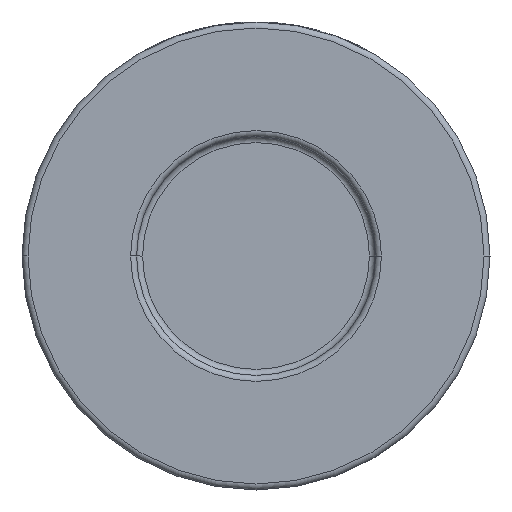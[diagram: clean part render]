
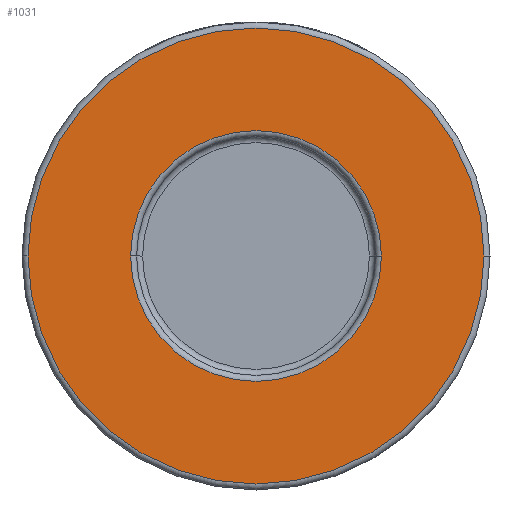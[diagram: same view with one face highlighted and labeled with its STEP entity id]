
A CAD part, front view. The second image highlights one B-rep face of the part: STEP entity #1031.
In plain terms, the highlighted planar face has unit normal (0, -1, 0).
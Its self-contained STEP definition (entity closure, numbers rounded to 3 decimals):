
#75 = DIRECTION ( 'NONE',  ( 1., 0., 0. ) ) ;
#110 = CIRCLE ( 'NONE', #397, 38. ) ;
#159 = VERTEX_POINT ( 'NONE', #3253 ) ;
#257 = AXIS2_PLACEMENT_3D ( 'NONE', #3612, #1127, #75 ) ;
#292 = CIRCLE ( 'NONE', #1090, 38. ) ;
#310 = FACE_BOUND ( 'NONE', #1123, .T. ) ;
#355 = EDGE_CURVE ( 'NONE', #2905, #593, #4001, .T. ) ;
#397 = AXIS2_PLACEMENT_3D ( 'NONE', #3383, #2945, #1634 ) ;
#459 = EDGE_LOOP ( 'NONE', ( #3872, #3549 ) ) ;
#465 = CARTESIAN_POINT ( 'NONE',  ( 38., -26., 0. ) ) ;
#471 = ORIENTED_EDGE ( 'NONE', *, *, #355, .T. ) ;
#593 = VERTEX_POINT ( 'NONE', #822 ) ;
#692 = EDGE_CURVE ( 'NONE', #159, #1931, #110, .T. ) ;
#723 = DIRECTION ( 'NONE',  ( 1., 0., 0. ) ) ;
#751 = AXIS2_PLACEMENT_3D ( 'NONE', #1556, #2305, #3697 ) ;
#822 = CARTESIAN_POINT ( 'NONE',  ( 20.9, -26., 0. ) ) ;
#1031 = ADVANCED_FACE ( 'NONE', ( #310, #1717 ), #4215, .T. ) ;
#1084 = DIRECTION ( 'NONE',  ( 0., -1., 0. ) ) ;
#1090 = AXIS2_PLACEMENT_3D ( 'NONE', #2567, #1084, #723 ) ;
#1099 = CARTESIAN_POINT ( 'NONE',  ( -20.9, -26., 0. ) ) ;
#1123 = EDGE_LOOP ( 'NONE', ( #2769, #471 ) ) ;
#1127 = DIRECTION ( 'NONE',  ( 0., 1., 0. ) ) ;
#1365 = AXIS2_PLACEMENT_3D ( 'NONE', #3121, #1366, #2775 ) ;
#1366 = DIRECTION ( 'NONE',  ( 0., -1., 0. ) ) ;
#1556 = CARTESIAN_POINT ( 'NONE',  ( 0., -26., 0. ) ) ;
#1634 = DIRECTION ( 'NONE',  ( 1., 0., 0. ) ) ;
#1717 = FACE_OUTER_BOUND ( 'NONE', #459, .T. ) ;
#1854 = EDGE_CURVE ( 'NONE', #1931, #159, #292, .T. ) ;
#1931 = VERTEX_POINT ( 'NONE', #465 ) ;
#2152 = CIRCLE ( 'NONE', #751, 20.9 ) ;
#2305 = DIRECTION ( 'NONE',  ( 0., 1., 0. ) ) ;
#2567 = CARTESIAN_POINT ( 'NONE',  ( 0., -26., 0. ) ) ;
#2769 = ORIENTED_EDGE ( 'NONE', *, *, #3196, .T. ) ;
#2775 = DIRECTION ( 'NONE',  ( 1., 0., 0. ) ) ;
#2905 = VERTEX_POINT ( 'NONE', #1099 ) ;
#2945 = DIRECTION ( 'NONE',  ( 0., -1., 0. ) ) ;
#3121 = CARTESIAN_POINT ( 'NONE',  ( 39., -26., 0. ) ) ;
#3196 = EDGE_CURVE ( 'NONE', #593, #2905, #2152, .T. ) ;
#3253 = CARTESIAN_POINT ( 'NONE',  ( -38., -26., 0. ) ) ;
#3383 = CARTESIAN_POINT ( 'NONE',  ( 0., -26., 0. ) ) ;
#3549 = ORIENTED_EDGE ( 'NONE', *, *, #692, .T. ) ;
#3612 = CARTESIAN_POINT ( 'NONE',  ( 0., -26., 0. ) ) ;
#3697 = DIRECTION ( 'NONE',  ( 1., 0., 0. ) ) ;
#3872 = ORIENTED_EDGE ( 'NONE', *, *, #1854, .T. ) ;
#4001 = CIRCLE ( 'NONE', #257, 20.9 ) ;
#4215 = PLANE ( 'NONE',  #1365 ) ;
